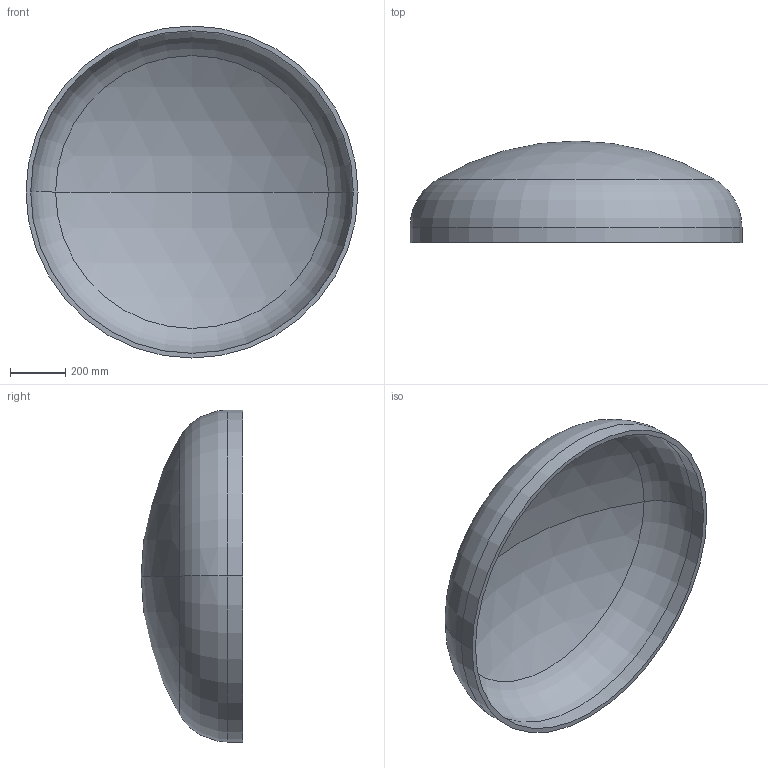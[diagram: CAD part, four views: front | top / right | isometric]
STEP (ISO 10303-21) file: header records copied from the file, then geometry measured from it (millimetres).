
FILE_DESCRIPTION (( 'STEP AP203' ), '1' );
FILE_NAME ('DIN 28013 Korbbogenform_-_Boden DIN 28013 - 1200 x 55 - I - s=17.step', '2016-07-01T09:22:24', ( '' ), ( '' ), 'SwSTEP 2.0', 'SolidWorks 2013', '' );
FILE_SCHEMA (( 'CONFIG_CONTROL_DESIGN' ));
Length unit declared in the file: millimetre
Products named in the file (1): DIN 28013 Korbbogenform_-_Boden DIN 28013 - 1200 x 55 - I - s=17
Bounding box: 1200 x 367 x 1200 mm (x, y, z)
Volume: 29615256.1 mm3; surface area: 3547932.4 mm2
Topology: 1 solids, 1 shells, 13 faces, 24 edges, 14 vertices
Faces by surface type: torus 4, cylinder 4, sphere 4, plane 1
Entity records: 407 total; most frequent: DIRECTION 72, CARTESIAN_POINT 52, ORIENTED_EDGE 48, AXIS2_PLACEMENT_3D 34, EDGE_CURVE 24, CIRCLE 20, EDGE_LOOP 14, VERTEX_POINT 14
